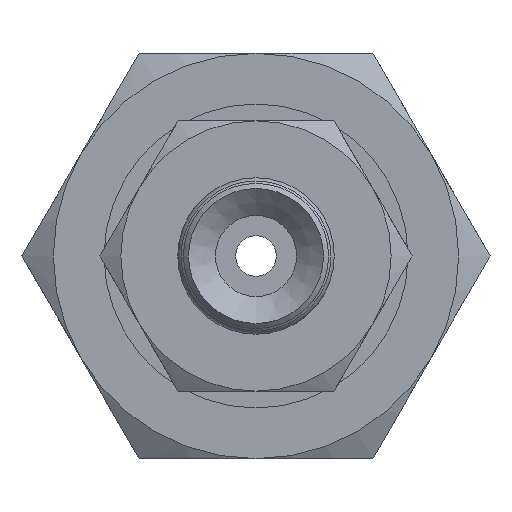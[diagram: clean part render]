
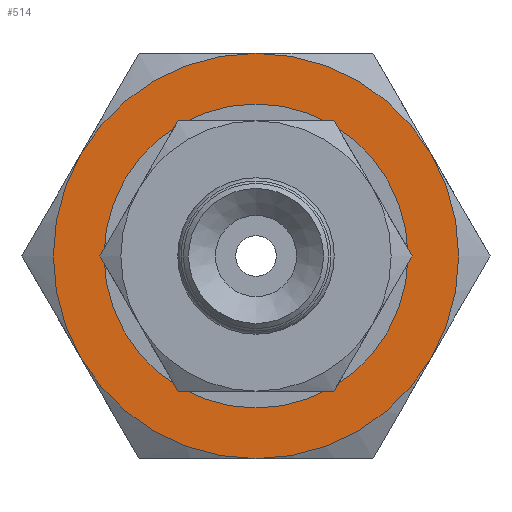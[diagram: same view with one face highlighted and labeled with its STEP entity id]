
A CAD part, front view. The second image highlights one B-rep face of the part: STEP entity #514.
In plain terms, the highlighted planar face has unit normal (0, -1, 0) as drawn and (-1, 0, 0) by its records, which use the part's own axes.
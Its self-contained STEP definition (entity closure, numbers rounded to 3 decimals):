
#514=ADVANCED_FACE('',(#713,#714),#715,.F.);
#713=FACE_BOUND('',#1011,.T.);
#714=FACE_OUTER_BOUND('',#1012,.T.);
#715=PLANE('',#1013);
#1011=EDGE_LOOP('',(#1589));
#1012=EDGE_LOOP('',(#1590,#1591,#1592,#1593,#1594,#1595));
#1013=AXIS2_PLACEMENT_3D('',#1596,#1597,#1598);
#1589=ORIENTED_EDGE('',*,*,#2073,.T.);
#1590=ORIENTED_EDGE('',*,*,#2045,.F.);
#1591=ORIENTED_EDGE('',*,*,#2079,.F.);
#1592=ORIENTED_EDGE('',*,*,#2036,.F.);
#1593=ORIENTED_EDGE('',*,*,#2052,.F.);
#1594=ORIENTED_EDGE('',*,*,#2080,.F.);
#1595=ORIENTED_EDGE('',*,*,#2081,.F.);
#1596=CARTESIAN_POINT('',(0.,0.0,0.0));
#1597=DIRECTION('',(1.0,0.0,0.0));
#1598=DIRECTION('',(0.0,1.0,0.0));
#2036=EDGE_CURVE('',#2305,#2306,#2307,.T.);
#2045=EDGE_CURVE('',#2321,#2323,#2324,.T.);
#2052=EDGE_CURVE('',#2335,#2305,#2336,.T.);
#2073=EDGE_CURVE('',#2369,#2369,#2370,.T.);
#2079=EDGE_CURVE('',#2306,#2321,#2376,.T.);
#2080=EDGE_CURVE('',#2360,#2335,#2377,.T.);
#2081=EDGE_CURVE('',#2323,#2360,#2378,.T.);
#2305=VERTEX_POINT('',#2753);
#2306=VERTEX_POINT('',#2754);
#2307=CIRCLE('',#2755,6.0);
#2321=VERTEX_POINT('',#2821);
#2323=VERTEX_POINT('',#2833);
#2324=CIRCLE('',#2834,6.0);
#2335=VERTEX_POINT('',#2887);
#2336=CIRCLE('',#2888,6.0);
#2360=VERTEX_POINT('',#3034);
#2369=VERTEX_POINT('',#3063);
#2370=CIRCLE('',#3064,4.0);
#2376=CIRCLE('',#3070,6.0);
#2377=CIRCLE('',#3071,6.0);
#2378=CIRCLE('',#3072,6.0);
#2753=CARTESIAN_POINT('',(0.,-5.196,-3.0));
#2754=CARTESIAN_POINT('',(0.,0.0,-6.0));
#2755=AXIS2_PLACEMENT_3D('',#3357,#3358,#3359);
#2821=CARTESIAN_POINT('',(0.,5.196,-3.0));
#2833=CARTESIAN_POINT('',(0.,5.196,3.0));
#2834=AXIS2_PLACEMENT_3D('',#3362,#3363,#3364);
#2887=CARTESIAN_POINT('',(0.,-5.196,3.0));
#2888=AXIS2_PLACEMENT_3D('',#3367,#3368,#3369);
#3034=CARTESIAN_POINT('',(0.,0.0,6.0));
#3063=CARTESIAN_POINT('',(0.,0.0,-4.0));
#3064=AXIS2_PLACEMENT_3D('',#3384,#3385,#3386);
#3070=AXIS2_PLACEMENT_3D('',#3402,#3403,#3404);
#3071=AXIS2_PLACEMENT_3D('',#3405,#3406,#3407);
#3072=AXIS2_PLACEMENT_3D('',#3408,#3409,#3410);
#3357=CARTESIAN_POINT('',(0.,0.0,0.0));
#3358=DIRECTION('',(1.0,0.0,0.0));
#3359=DIRECTION('',(0.0,0.0,-1.0));
#3362=CARTESIAN_POINT('',(0.,0.0,0.0));
#3363=DIRECTION('',(1.0,0.0,0.0));
#3364=DIRECTION('',(0.0,0.0,-1.0));
#3367=CARTESIAN_POINT('',(0.,0.0,0.0));
#3368=DIRECTION('',(1.0,0.0,0.0));
#3369=DIRECTION('',(0.0,0.0,-1.0));
#3384=CARTESIAN_POINT('',(0.,0.0,0.0));
#3385=DIRECTION('',(1.0,0.0,0.0));
#3386=DIRECTION('',(0.0,0.0,-1.0));
#3402=CARTESIAN_POINT('',(0.,0.0,0.0));
#3403=DIRECTION('',(1.0,0.0,0.0));
#3404=DIRECTION('',(0.0,0.0,-1.0));
#3405=CARTESIAN_POINT('',(0.,0.0,0.0));
#3406=DIRECTION('',(1.0,0.0,0.0));
#3407=DIRECTION('',(0.0,0.0,-1.0));
#3408=CARTESIAN_POINT('',(0.,0.0,0.0));
#3409=DIRECTION('',(1.0,0.0,0.0));
#3410=DIRECTION('',(0.0,0.0,-1.0));
